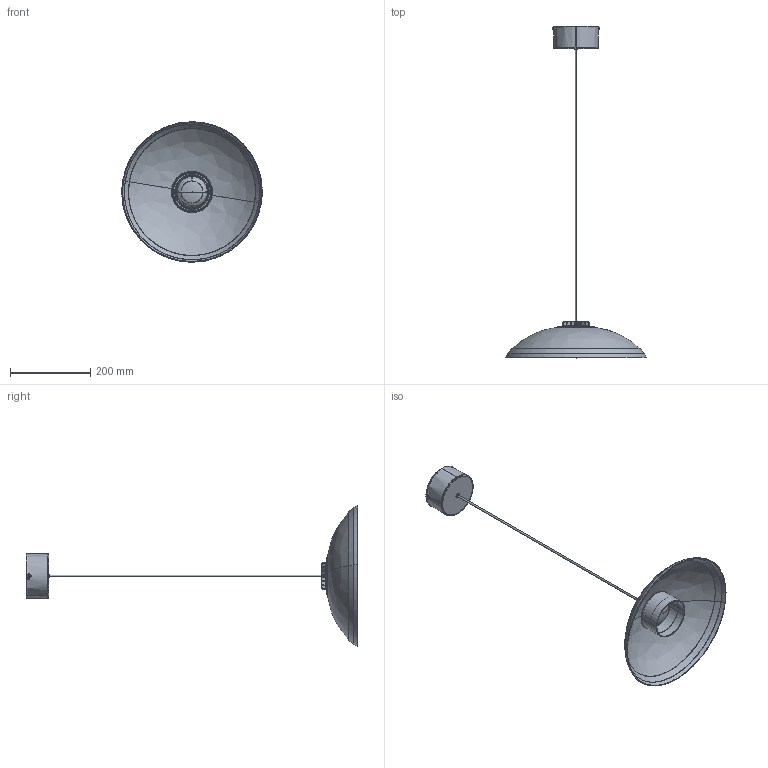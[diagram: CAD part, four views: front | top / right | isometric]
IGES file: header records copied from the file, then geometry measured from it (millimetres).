
Start section: SolidWorks IGES file using analytic representation for surfaces
Global section: file name: C:\SANTACOLE_PDM\Proyectos Catálogo\PROD-P13-003 -- CÁPSULA HEAD LED\6_Técnico comercial\3D\Plate\HeadHat Plate S.IGS; native system: SolidWorks 2019; preprocessor: SolidWorks 2019; author: aina.morell; date: 200406.172818; units: millimetre
Bounding box: 349.97 x 826.51 x 349.97 mm (x, y, z)
Surface area: 408576.2 mm2 (no closed solid volume)
Topology: 0 solids, 0 shells, 1792 faces, 20528 edges, 20513 vertices
Faces by surface type: bspline 1509, revolution 283
